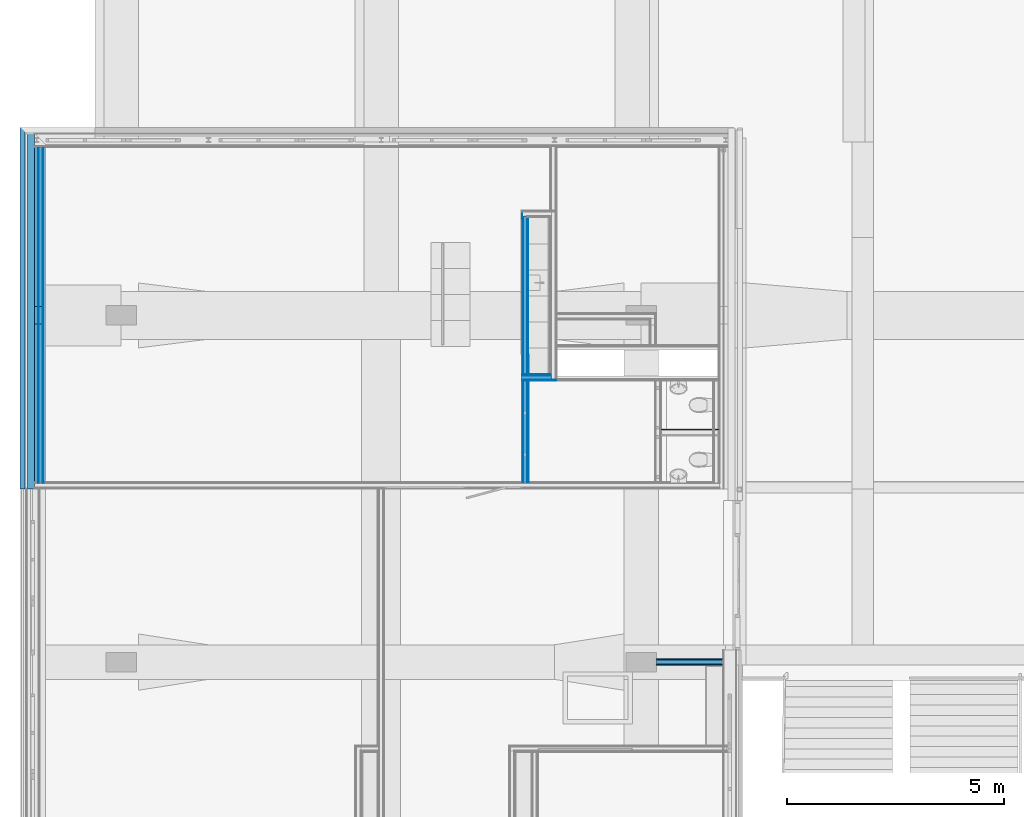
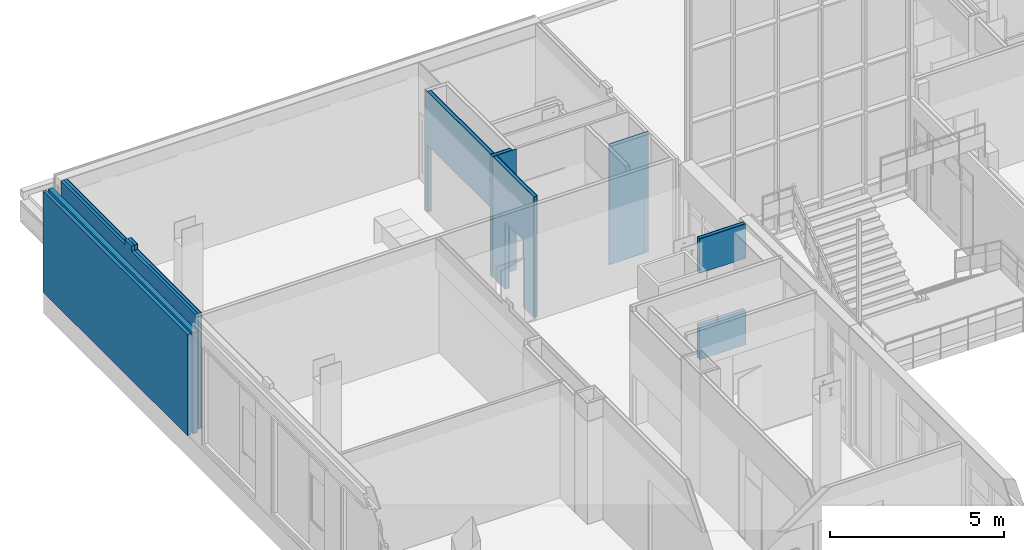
# One storey, part 46 of 94: 22 building element parts, 3 openings, 6 elements without a shape of their own.
"""IFC2X3 building model written with IfcOpenShell, lengths in millimetres."""

from ifc_helpers import new_model, entity, si_unit, converted_unit, derived_unit, money_unit, direction, frame, origin_with_axes, place, context, subcontext, project, spatial, faceted_brep, material, type_object, element, aggregate, save


model = new_model("IFC2X3")

# Units and contexts
model_context = context("Model", 3, precision=0.01, world=origin_with_axes(), true_north=direction((0.0, 1.0)))
body_context = subcontext(model_context, "Body", "Model", "MODEL_VIEW")
ifc_project = project(units=[si_unit("LENGTHUNIT", "METRE", prefix="MILLI"), si_unit("AREAUNIT", "SQUARE_METRE"), si_unit("VOLUMEUNIT", "CUBIC_METRE"), converted_unit("PLANEANGLEUNIT", "DEGREE", entity("IfcPlaneAngleMeasure", 0.0174532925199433), si_unit("PLANEANGLEUNIT", "RADIAN"), dimensions=[0, 0, 0, 0, 0, 0, 0]), money_unit("EUR"), converted_unit("TIMEUNIT", "Year", entity("IfcTimeMeasure", 31557600.0), si_unit("TIMEUNIT", "SECOND"), dimensions=[0, 0, 1, 0, 0, 0, 0]), si_unit("MASSUNIT", "GRAM", prefix="KILO"), si_unit("THERMODYNAMICTEMPERATUREUNIT", "DEGREE_CELSIUS"), si_unit("LUMINOUSINTENSITYUNIT", "LUMEN"), si_unit("ENERGYUNIT", "JOULE", prefix="MEGA"), derived_unit("THERMALCONDUCTANCEUNIT", [(si_unit("POWERUNIT", "WATT"), 1), (si_unit("LENGTHUNIT", "METRE"), -1), (si_unit("THERMODYNAMICTEMPERATUREUNIT", "KELVIN"), -1)]), derived_unit("SPECIFICHEATCAPACITYUNIT", [(si_unit("ENERGYUNIT", "JOULE"), 1), (si_unit("MASSUNIT", "GRAM", prefix="KILO"), -1), (si_unit("THERMODYNAMICTEMPERATUREUNIT", "KELVIN"), -1)]), derived_unit("MASSDENSITYUNIT", [(si_unit("MASSUNIT", "GRAM", prefix="KILO"), 1), (si_unit("VOLUMEUNIT", "CUBIC_METRE"), -1)])], contexts=[model_context])

# Site, building, storey
site_placement = place(None, origin_with_axes())
site = spatial("IfcSite", under=ifc_project, at=site_placement, Name="<site naam>", CompositionType="ELEMENT")
building_placement = place(site_placement, origin_with_axes())
building = spatial("IfcBuilding", under=site, at=building_placement, Name="<Naam gebouw>", CompositionType="ELEMENT")
storey_placement = place(building_placement, frame((0.0, 0.0, 4250.0), z_axis=(0.0, 0.0, 1.0), x_axis=(1.0, 0.0, 0.0)))
storey = spatial("IfcBuildingStorey", under=building, at=storey_placement, Name="01 1e verdieping", CompositionType="ELEMENT", Elevation=4250.0)

# Wall, building element parts
wall_type_1 = type_object("IfcWallType", Name="metselwerk-lucht-kalkzandsteen 335 335", PredefinedType="NOTDEFINED")
wall_1_placement = place(storey_placement, frame((-12334.99999999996, 12000.00000000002, 0.0), z_axis=(0.0, 0.0, 1.0), x_axis=(0.0, 1.0, 0.0)))
wall_1 = element("IfcWall", 1, at=wall_1_placement, inside=storey, type_object=wall_type_1, Name="21_Binnenwand_metselwerk-lucht-kalkzandsteen")
ifc_material_1 = material(Name="metselwerk AFW")
building_element_part_1_placement = place(wall_1_placement, origin_with_axes())
building_element_part_1 = element("IfcBuildingElementPart", 2, at=building_element_part_1_placement, material=ifc_material_1, Name="metselwerk AFW", context=body_context, shape_type="Brep", body=[
    faceted_brep([(0.0, -109.9999999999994, 3560.000003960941), (8335.0, -109.9999999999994, 3560.000003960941), (8335.0, 0.0, 3560.000003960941), (0.0, 0.0, 3560.000003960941), (0.0, -109.9999999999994, 0.0), (8335.0, -109.9999999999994, 0.0), (8335.0, 0.0, 0.0), (0.0, 0.0, 0.0)], [[[0, 1, 2, 3]], [[4, 5, 1, 0]], [[2, 1, 5, 6]], [[3, 2, 6, 7]], [[4, 0, 3, 7]], [[7, 6, 5, 4]]]),
])
ifc_material_2 = material(Name="kalkzandsteen C")
building_element_part_2_placement = place(wall_1_placement, origin_with_axes())
building_element_part_2 = element("IfcBuildingElementPart", 3, at=building_element_part_2_placement, material=ifc_material_2, Name="kalkzandsteen C", context=body_context, shape_type="Brep", body=[
    faceted_brep([(8174.999992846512, -335.0000000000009, 0.0), (8174.999992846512, -335.0000000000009, 19.99999999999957), (8214.999999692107, -335.0000000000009, 19.99999999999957), (8214.999999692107, -335.0000000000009, 0.0), (8335.0, -335.0000000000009, 0.0), (8335.0, -334.9999999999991, 3560.000003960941), (0.0, -334.9999999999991, 3560.000003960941), (0.0, -335.0000000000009, 0.0), (8174.999992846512, -175.0000000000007, 0.0), (8174.999992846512, -174.9999999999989, 19.99999999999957), (8214.999999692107, -174.9999999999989, 19.99999999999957), (8214.999999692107, -175.0000000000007, 0.0), (8335.0, -175.0000000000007, 0.0), (8335.0, -174.9999999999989, 3560.000003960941), (0.0, -174.9999999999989, 3560.000003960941), (0.0, -175.0000000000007, 0.0)], [[[0, 1, 2, 3, 4, 5, 6, 7]], [[1, 0, 8, 9]], [[2, 1, 9, 10]], [[3, 2, 10, 11]], [[3, 11, 12, 4]], [[13, 5, 4, 12]], [[6, 5, 13, 14]], [[7, 6, 14, 15]], [[8, 0, 7, 15]], [[9, 8, 15, 14, 13, 12, 11, 10]]]),
])
aggregate(wall_1, [building_element_part_1, building_element_part_2])

# Wall, openings, building element parts
wall_type_2 = type_object("IfcWallType", Name="MS-01 GF 150 ECO DGS/2.100.2.A 150", PredefinedType="NOTDEFINED")
wall_2_placement = place(storey_placement, frame((-751.89200798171, 18267.48958726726, 0.0), z_axis=(0.0, 0.0, 1.0), x_axis=(0.0003089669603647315, -0.9999999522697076, 0.0)))
wall_2 = element("IfcWall", 4, at=wall_2_placement, inside=storey, type_object=wall_type_2, Name="22_Binnenwand_MS-01")
opening_1_placement = place(wall_2_placement, frame((4999.526711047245, 0.0, 0.0), z_axis=(0.0, 0.0, 1.0), x_axis=(1.0, 0.0, 0.0)))
element("IfcOpeningElement", 5, at=opening_1_placement, cuts=wall_2, Name="22_BI-H-11_305", context=body_context, shape_type="Brep", body=[
    faceted_brep([(516.9999999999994, 152.936447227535, 2367.0), (516.9999999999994, 152.9364472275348, 0.0), (-517.0000000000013, 152.9364472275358, 0.0), (-517.0000000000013, 152.936447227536, 2367.0), (516.9999999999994, -2.936447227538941, 2367.0), (516.9999999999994, -2.936447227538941, 0.0), (-517.0000000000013, -2.936447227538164, 0.0), (-517.0000000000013, -2.936447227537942, 2367.0)], [[[0, 1, 2, 3]], [[4, 5, 1, 0]], [[5, 6, 2, 1]], [[6, 7, 3, 2]], [[7, 4, 0, 3]], [[6, 5, 4, 7]]]),
])
opening_2_placement = place(wall_2_placement, frame((18267.72102514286, 746.2479213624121, -4250.0), z_axis=(0.0, 0.0, 1.0), x_axis=(0.0003089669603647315, 0.9999999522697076, 0.0)))
element("IfcOpeningElement", 6, at=opening_2_placement, cuts=wall_2, Name="22_Opening_", context=body_context, shape_type="Brep", body=[
    faceted_brep([(-903.8284481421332, 18262.2394199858, 4248.5), (-903.8284481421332, 18262.2394199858, 6615.500000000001), (-448.0191276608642, 18262.38025001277, 6615.500000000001), (-448.0191276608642, 18262.38025001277, 4248.5), (-903.8284481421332, 14642.23924720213, 4248.5), (-903.8284481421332, 14642.23924720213, 6615.500000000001), (-448.0191276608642, 14642.38007722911, 6615.500000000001), (-448.0191276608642, 14642.38007722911, 4248.5)], [[[0, 1, 2, 3]], [[0, 4, 5, 1]], [[1, 5, 6, 2]], [[3, 2, 6, 7]], [[4, 0, 3, 7]], [[5, 4, 7, 6]]]),
])
ifc_material_3 = material(Name="gipsplaat")
building_element_part_3_placement = place(wall_2_placement, origin_with_axes())
building_element_part_3 = element("IfcBuildingElementPart", 7, at=building_element_part_3_placement, material=ifc_material_3, Name="gipsplaat", context=body_context, shape_type="Brep", body=[
    faceted_brep([(3780.032281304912, 137.4999999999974, 3.000000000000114), (6117.532362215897, 137.4999999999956, 3.000000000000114), (6117.532362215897, 137.4999999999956, 4250.0), (0.0412629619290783, 137.5000000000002, 4250.0), (0.0412629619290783, 137.5000000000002, 3.000000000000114), (3630.032362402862, 137.4999999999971, 3.000000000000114), (3630.032362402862, 137.499999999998, 0.0), (3780.032281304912, 137.4999999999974, 0.0), (0.2414861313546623, 137.4999999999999, 2367.0), (0.2414861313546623, 137.4999999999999, 2377.0), (3630.233334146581, 137.4999999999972, 2377.0), (3630.233334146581, 137.4999999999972, 2367.0), (3780.036143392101, 149.9999999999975, 3.000000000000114), (6117.536224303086, 149.9999999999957, 3.000000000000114), (6117.536224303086, 149.9999999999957, 4250.0), (0.04501414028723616, 149.9999999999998, 4250.0), (0.04501414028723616, 149.9999999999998, 3.000000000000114), (3630.03622449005, 149.999999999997, 3.000000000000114), (3630.03622449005, 149.999999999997, 0.0), (3780.036143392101, 149.9999999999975, 0.0), (0.2453482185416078, 149.9999999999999, 2367.0), (0.2453482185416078, 149.9999999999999, 2377.0), (3630.23719623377, 149.9999999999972, 2377.0), (3630.23719623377, 149.9999999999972, 2367.0)], [[[0, 1, 2, 3, 4, 5, 6, 7], [8, 9, 10, 11]], [[12, 13, 1, 0]], [[1, 13, 14, 2]], [[2, 14, 15, 3]], [[16, 4, 3, 15]], [[16, 17, 5, 4]], [[17, 18, 6, 5]], [[19, 7, 6, 18]], [[19, 12, 0, 7]], [[20, 21, 9, 8]], [[21, 22, 10, 9]], [[22, 23, 11, 10]], [[23, 20, 8, 11]], [[12, 19, 18, 17, 16, 15, 14, 13], [20, 23, 22, 21]]]),
])
building_element_part_4_placement = place(wall_2_placement, origin_with_axes())
building_element_part_4 = element("IfcBuildingElementPart", 8, at=building_element_part_4_placement, material=ifc_material_3, Name="gipsplaat", context=body_context, shape_type="Brep", body=[
    faceted_brep([(3780.028419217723, 124.9999999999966, 3.000000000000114), (6117.528500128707, 124.9999999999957, 3.000000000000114), (6117.528500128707, 124.9999999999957, 4250.0), (-12.46248877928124, 125.0000000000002, 4250.0), (-12.46248877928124, 125.0000000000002, 3.000000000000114), (3630.028500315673, 124.999999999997, 3.000000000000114), (3630.028500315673, 124.9999999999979, 0.0), (3780.028419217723, 124.9999999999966, 0.0), (0.2376240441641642, 124.9999999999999, 2367.0), (0.2376240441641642, 124.9999999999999, 2377.0), (3630.22947205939, 124.9999999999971, 2377.0), (3630.22947205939, 124.9999999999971, 2367.0), (3780.032281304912, 137.4999999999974, 3.000000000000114), (6117.532362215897, 137.4999999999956, 3.000000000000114), (6117.532362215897, 137.4999999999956, 4250.0), (-12.45873760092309, 137.5000000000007, 4250.0), (-12.45873760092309, 137.4999999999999, 3.000000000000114), (3630.032362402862, 137.4999999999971, 3.000000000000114), (3630.032362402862, 137.4999999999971, 0.0), (3780.032281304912, 137.4999999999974, 0.0), (0.2414861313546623, 137.4999999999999, 2367.0), (0.2414861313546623, 137.4999999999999, 2377.0), (3630.233334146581, 137.4999999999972, 2377.0), (3630.233334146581, 137.4999999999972, 2367.0)], [[[0, 1, 2, 3, 4, 5, 6, 7], [8, 9, 10, 11]], [[12, 13, 1, 0]], [[1, 13, 14, 2]], [[2, 14, 15, 3]], [[16, 4, 3, 15]], [[16, 17, 5, 4]], [[17, 18, 6, 5]], [[19, 7, 6, 18]], [[19, 12, 0, 7]], [[20, 21, 9, 8]], [[21, 22, 10, 9]], [[22, 23, 11, 10]], [[23, 20, 8, 11]], [[12, 19, 18, 17, 16, 15, 14, 13], [20, 23, 22, 21]]]),
])
ifc_material_4 = material(Name="isolatie_steenwol LSW")
building_element_part_5_placement = place(wall_2_placement, origin_with_axes())
building_element_part_5 = element("IfcBuildingElementPart", 9, at=building_element_part_5_placement, material=ifc_material_4, Name="isolatie_steenwol LSW", context=body_context, shape_type="Brep", body=[
    faceted_brep([(3779.997522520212, 24.99999999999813, 3.000000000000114), (6117.497603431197, 24.99999999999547, 3.000000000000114), (6117.497603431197, 24.99999999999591, 4250.0), (-24.99249876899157, 25.00000000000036, 4250.0), (-24.99249876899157, 24.99999999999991, 3.000000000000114), (3629.997603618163, 24.99999999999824, 3.000000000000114), (3629.997603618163, 24.99999999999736, 0.0), (3779.997522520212, 24.9999999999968, 0.0), (0.2067273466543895, 25.00000000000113, 2367.0), (0.2067273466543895, 25.00000000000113, 2377.0), (3630.198575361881, 24.99999999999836, 2377.0), (3630.198575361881, 24.99999999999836, 2367.0), (3780.028419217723, 124.9999999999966, 3.000000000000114), (6117.528500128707, 124.9999999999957, 3.000000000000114), (6117.528500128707, 124.9999999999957, 4250.0), (-24.96248934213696, 124.9999999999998, 4250.0), (-24.96248934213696, 124.9999999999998, 3.000000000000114), (3630.028500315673, 124.999999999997, 3.000000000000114), (3630.028500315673, 124.999999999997, 0.0), (3780.028419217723, 124.9999999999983, 0.0), (0.2376240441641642, 124.9999999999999, 2367.0), (0.2376240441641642, 124.9999999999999, 2377.0), (3630.22947205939, 124.9999999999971, 2377.0), (3630.22947205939, 124.9999999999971, 2367.0)], [[[0, 1, 2, 3, 4, 5, 6, 7], [8, 9, 10, 11]], [[12, 13, 1, 0]], [[1, 13, 14, 2]], [[2, 14, 15, 3]], [[16, 4, 3, 15]], [[16, 17, 5, 4]], [[17, 18, 6, 5]], [[19, 7, 6, 18]], [[19, 12, 0, 7]], [[20, 21, 9, 8]], [[21, 22, 10, 9]], [[22, 23, 11, 10]], [[23, 20, 8, 11]], [[12, 19, 18, 17, 16, 15, 14, 13], [20, 23, 22, 21]]]),
])
building_element_part_6_placement = place(wall_2_placement, origin_with_axes())
building_element_part_6 = element("IfcBuildingElementPart", 10, at=building_element_part_6_placement, material=ifc_material_3, Name="gipsplaat", context=body_context, shape_type="Brep", body=[
    faceted_brep([(3779.993660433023, 12.49999999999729, 3.000000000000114), (6117.493741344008, 12.49999999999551, 3.000000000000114), (6117.493741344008, 12.49999999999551, 4250.0), (-124.9962544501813, 12.50000000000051, 4250.0), (-124.9962544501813, 12.50000000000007, 3.000000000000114), (3629.993741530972, 12.49999999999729, 3.000000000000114), (3629.993741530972, 12.49999999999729, 0.0), (3779.993660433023, 12.49999999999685, 0.0), (0.2028652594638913, 12.50000000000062, 2367.0), (0.2028652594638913, 12.50000000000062, 2377.0), (3630.194713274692, 12.49999999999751, 2377.0), (3630.194713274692, 12.49999999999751, 2367.0), (3779.997522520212, 24.99999999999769, 3.000000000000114), (6117.497603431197, 24.99999999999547, 3.000000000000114), (6117.497603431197, 24.99999999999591, 4250.0), (-124.9925032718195, 25.00000000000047, 4250.0), (-124.9925032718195, 25.00000000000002, 3.000000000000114), (3629.997603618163, 24.9999999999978, 3.000000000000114), (3629.997603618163, 24.99999999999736, 0.0), (3779.997522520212, 24.99999999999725, 0.0), (0.2067273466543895, 25.00000000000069, 2367.0), (0.2067273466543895, 25.00000000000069, 2377.0), (3630.198575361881, 24.99999999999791, 2377.0), (3630.198575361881, 24.99999999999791, 2367.0)], [[[0, 1, 2, 3, 4, 5, 6, 7], [8, 9, 10, 11]], [[12, 13, 1, 0]], [[1, 13, 14, 2]], [[2, 14, 15, 3]], [[16, 4, 3, 15]], [[16, 17, 5, 4]], [[17, 18, 6, 5]], [[19, 7, 6, 18]], [[19, 12, 0, 7]], [[20, 21, 9, 8]], [[21, 22, 10, 9]], [[22, 23, 11, 10]], [[23, 20, 8, 11]], [[12, 19, 18, 17, 16, 15, 14, 13], [20, 23, 22, 21]]]),
])
aggregate(wall_2, [building_element_part_3, building_element_part_4, building_element_part_5, building_element_part_6])

# Wall, building element parts
wall_3_placement = place(storey_placement, frame((49.99999949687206, 14487.49996934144, 0.0), z_axis=(0.0, 0.0, 1.0), x_axis=(-1.0, 0.0, 0.0)))
wall_3 = element("IfcWall", 11, at=wall_3_placement, inside=storey, type_object=wall_type_2, Name="22_Binnenwand_MS-01")
building_element_part_7_placement = place(wall_3_placement, origin_with_axes())
building_element_part_7 = element("IfcBuildingElementPart", 12, at=building_element_part_7_placement, material=ifc_material_3, Name="gipsplaat", context=body_context, shape_type="Brep", body=[
    faceted_brep([(12.49999911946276, 0.0, 3040.0), (12.50177247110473, -12.49997454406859, 3040.0), (12.50177247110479, -12.49999999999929, 4250.0), (12.49999911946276, 0.0, 4250.0), (650.0018980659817, -12.49997454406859, 3040.0), (650.0018980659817, 0.0, 3040.0), (650.0018980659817, -12.49997454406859, 3000.0), (12.50177247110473, -12.49997454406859, 3000.0), (12.50177247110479, -12.49999999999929, 0.0), (799.9555601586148, -12.49999999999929, 0.0), (799.9555601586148, -12.49999999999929, 4250.0), (799.9555601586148, 0.0, 4250.0), (799.9555601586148, 0.0, 0.0), (12.49999911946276, 0.0, 0.0), (12.49999911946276, 0.0, 3000.0), (650.0018980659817, 0.0, 3000.0)], [[[0, 1, 2, 3]], [[4, 1, 0, 5]], [[6, 7, 8, 9, 10, 2, 1, 4]], [[2, 10, 11, 3]], [[5, 0, 3, 11, 12, 13, 14, 15]], [[6, 4, 5, 15]], [[14, 7, 6, 15]], [[7, 14, 13, 8]], [[13, 12, 9, 8]], [[9, 12, 11, 10]]]),
])
building_element_part_8_placement = place(wall_3_placement, origin_with_axes())
building_element_part_8 = element("IfcBuildingElementPart", 13, at=building_element_part_8_placement, material=ifc_material_4, Name="isolatie_steenwol LSW", context=body_context, shape_type="Brep", body=[
    faceted_brep([(125.0035469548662, -25.00000000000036, 0.0), (799.9555601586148, -25.00000000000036, 0.0), (799.9555601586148, -125.0, 0.0), (125.0177337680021, -125.0, 0.0), (125.0035469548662, -25.00000000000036, 4250.0), (799.9555601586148, -25.00000000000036, 4250.0), (799.9555601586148, -125.0, 4250.0), (125.0177337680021, -125.0, 4250.0)], [[[0, 1, 2, 3]], [[4, 5, 1, 0]], [[2, 1, 5, 6]], [[3, 2, 6, 7]], [[4, 0, 3, 7]], [[7, 6, 5, 4]]]),
])
building_element_part_9_placement = place(wall_3_placement, origin_with_axes())
building_element_part_9 = element("IfcBuildingElementPart", 14, at=building_element_part_9_placement, material=ifc_material_3, Name="gipsplaat", context=body_context, shape_type="Brep", body=[
    faceted_brep([(150.021252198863, -149.7989400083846, 2367.0), (150.021252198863, -149.7989400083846, 2377.0), (150.0212807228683, -150.0000000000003, 2377.0), (150.0212807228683, -150.0000000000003, 4250.0), (150.0195073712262, -137.4999999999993, 4250.0), (150.0195073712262, -137.4999999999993, 0.0), (150.0212807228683, -150.0000000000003, 0.0), (150.0212807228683, -150.0000000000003, 2367.0), (799.9555601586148, -149.7989400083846, 2367.0), (799.9555601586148, -149.7989400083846, 2377.0), (799.9555601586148, -150.0000000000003, 2377.0), (799.9555601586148, -150.0000000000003, 4250.0), (799.9555601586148, -137.4999999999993, 4250.0), (799.9555601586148, -137.4999999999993, 0.0), (799.9555601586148, -150.0000000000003, 0.0), (799.9555601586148, -150.0000000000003, 2367.0)], [[[0, 1, 2, 3, 4, 5, 6, 7]], [[1, 0, 8, 9]], [[10, 2, 1, 9]], [[2, 10, 11, 3]], [[3, 11, 12, 4]], [[4, 12, 13, 5]], [[5, 13, 14, 6]], [[15, 7, 6, 14]], [[0, 7, 15, 8]], [[8, 15, 14, 13, 12, 11, 10, 9]]]),
])
building_element_part_10_placement = place(wall_3_placement, origin_with_axes())
building_element_part_10 = element("IfcBuildingElementPart", 15, at=building_element_part_10_placement, material=ifc_material_3, Name="gipsplaat", context=body_context, shape_type="Brep", body=[
    faceted_brep([(25.00177259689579, -12.49999999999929, 0.0), (799.9555601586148, -12.49999999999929, 0.0), (799.9555601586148, -25.00000000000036, 0.0), (25.00354594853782, -25.00000000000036, 0.0), (25.00177259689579, -12.49999999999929, 4250.0), (799.9555601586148, -12.49999999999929, 4250.0), (799.9555601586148, -25.00000000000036, 4250.0), (25.00354594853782, -25.00000000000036, 4250.0)], [[[0, 1, 2, 3]], [[4, 5, 1, 0]], [[2, 1, 5, 6]], [[3, 2, 6, 7]], [[4, 0, 3, 7]], [[7, 6, 5, 4]]]),
])
building_element_part_11_placement = place(wall_3_placement, origin_with_axes())
building_element_part_11 = element("IfcBuildingElementPart", 16, at=building_element_part_11_placement, material=ifc_material_3, Name="gipsplaat", context=body_context, shape_type="Brep", body=[
    faceted_brep([(137.5177338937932, -125.0, 0.0), (799.9555601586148, -125.0, 0.0), (799.9555601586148, -137.4999999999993, 0.0), (137.5195072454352, -137.4999999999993, 0.0), (137.5177338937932, -125.0, 4250.0), (799.9555601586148, -125.0, 4250.0), (799.9555601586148, -137.4999999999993, 4250.0), (137.5195072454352, -137.4999999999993, 4250.0)], [[[0, 1, 2, 3]], [[4, 5, 1, 0]], [[2, 1, 5, 6]], [[3, 2, 6, 7]], [[4, 0, 3, 7]], [[7, 6, 5, 4]]]),
])
aggregate(wall_3, [building_element_part_7, building_element_part_8, building_element_part_9, building_element_part_10, building_element_part_11])

wall_type_3 = type_object("IfcWallType", Name="therm. voorzetwand 215mm 215", PredefinedType="NOTDEFINED")
wall_4_placement = place(storey_placement, frame((-11999.99999999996, 19883.99999999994, 0.0), z_axis=(0.0, 0.0, 1.0), x_axis=(0.0, -1.0, 0.0)))
wall_4 = element("IfcWall", 17, at=wall_4_placement, inside=storey, type_object=wall_type_3, Name="22_Binnenwand_therm.")
building_element_part_12_placement = place(wall_4_placement, origin_with_axes())
building_element_part_12 = element("IfcBuildingElementPart", 18, at=building_element_part_12_placement, material=ifc_material_3, Name="gipsplaat", context=body_context, shape_type="Brep", body=[
    faceted_brep([(3683.999999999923, 214.9999999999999, 4250.0), (3683.999999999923, 202.5000000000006, 4250.0), (4083.999999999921, 202.5000000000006, 4250.0), (4083.999999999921, 214.9999999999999, 4250.0), (3683.999999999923, 214.9999999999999, 4070.000000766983), (3683.999999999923, 202.5000000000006, 4070.000000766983), (0.0, 202.5000000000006, 4070.000000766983), (0.0, 202.5000000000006, 0.0), (7749.032361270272, 202.4999999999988, 0.0), (7749.032361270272, 202.4999999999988, 4070.000000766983), (4083.999999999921, 202.5000000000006, 4070.000000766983), (4083.999999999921, 214.9999999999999, 4070.000000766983), (7749.032361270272, 214.9999999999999, 4070.000000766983), (7749.032361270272, 214.9999999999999, 0.0), (0.0, 214.9999999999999, 0.0), (0.0, 214.9999999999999, 4070.000000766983)], [[[0, 1, 2, 3]], [[1, 0, 4, 5]], [[5, 6, 7, 8, 9, 10, 2, 1]], [[11, 3, 2, 10]], [[4, 0, 3, 11, 12, 13, 14, 15]], [[4, 15, 6, 5]], [[6, 15, 14, 7]], [[14, 13, 8, 7]], [[12, 9, 8, 13]], [[12, 11, 10, 9]]]),
])
building_element_part_13_placement = place(wall_4_placement, origin_with_axes())
building_element_part_13 = element("IfcBuildingElementPart", 19, at=building_element_part_13_placement, material=ifc_material_3, Name="gipsplaat", context=body_context, shape_type="Brep", body=[
    faceted_brep([(3683.999999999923, 202.5000000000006, 4250.0), (3683.999999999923, 189.9999999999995, 4250.0), (4083.999999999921, 189.9999999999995, 4250.0), (4083.999999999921, 202.5000000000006, 4250.0), (3683.999999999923, 202.5000000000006, 4070.000000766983), (3683.999999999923, 190.0000000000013, 4070.000000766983), (0.0, 189.9999999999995, 4070.000000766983), (0.0, 189.9999999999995, 0.0), (7749.032361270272, 189.9999999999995, 0.0), (7749.032361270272, 189.9999999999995, 4070.000000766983), (4083.999999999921, 190.0000000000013, 4070.000000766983), (4083.999999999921, 202.5000000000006, 4070.000000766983), (7749.032361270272, 202.4999999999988, 4070.000000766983), (7749.032361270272, 202.4999999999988, 0.0), (0.0, 202.5000000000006, 0.0), (0.0, 202.5000000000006, 4070.000000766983)], [[[0, 1, 2, 3]], [[1, 0, 4, 5]], [[5, 6, 7, 8, 9, 10, 2, 1]], [[11, 3, 2, 10]], [[4, 0, 3, 11, 12, 13, 14, 15]], [[4, 15, 6, 5]], [[6, 15, 14, 7]], [[14, 13, 8, 7]], [[12, 9, 8, 13]], [[12, 11, 10, 9]]]),
])
ifc_material_5 = material(Name="isolatie_steenwol")
building_element_part_14_placement = place(wall_4_placement, origin_with_axes())
building_element_part_14 = element("IfcBuildingElementPart", 20, at=building_element_part_14_placement, material=ifc_material_5, Name="isolatie_steenwol", context=body_context, shape_type="Brep", body=[
    faceted_brep([(3683.999999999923, 189.9999999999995, 4250.0), (3683.999999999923, 99.99999999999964, 4250.0), (4083.999999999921, 99.99999999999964, 4250.0), (4083.999999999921, 189.9999999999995, 4250.0), (3683.999999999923, 190.0000000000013, 4070.000000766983), (3683.999999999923, 100.0000000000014, 4070.000000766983), (0.0, 99.99999999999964, 4070.000000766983), (0.0, 99.99999999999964, 0.0), (7749.032361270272, 99.99999999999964, 0.0), (7749.032361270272, 99.99999999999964, 4070.000000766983), (4083.999999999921, 100.0000000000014, 4070.000000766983), (4083.999999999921, 190.0000000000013, 4070.000000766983), (7749.032361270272, 189.9999999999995, 4070.000000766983), (7749.032361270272, 189.9999999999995, 0.0), (0.0, 189.9999999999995, 0.0), (0.0, 189.9999999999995, 4070.000000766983)], [[[0, 1, 2, 3]], [[1, 0, 4, 5]], [[5, 6, 7, 8, 9, 10, 2, 1]], [[11, 3, 2, 10]], [[4, 0, 3, 11, 12, 13, 14, 15]], [[4, 15, 6, 5]], [[6, 15, 14, 7]], [[14, 13, 8, 7]], [[12, 9, 8, 13]], [[12, 11, 10, 9]]]),
])
building_element_part_15_placement = place(wall_4_placement, origin_with_axes())
building_element_part_15 = element("IfcBuildingElementPart", 21, at=building_element_part_15_placement, material=ifc_material_5, Name="isolatie_steenwol", context=body_context, shape_type="Brep", body=[
    faceted_brep([(3683.999999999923, 89.99999999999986, 4250.0), (3683.999999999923, 0.0, 4250.0), (4083.999999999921, 0.0, 4250.0), (4083.999999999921, 89.99999999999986, 4250.0), (3683.999999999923, 89.99999999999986, 4070.000000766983), (3683.999999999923, 0.0, 4070.000000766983), (0.0, 0.0, 4070.000000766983), (0.0, 0.0, 0.0), (7749.032361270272, 0.0, 0.0), (7749.032361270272, 0.0, 4070.000000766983), (4083.999999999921, 0.0, 4070.000000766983), (4083.999999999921, 89.99999999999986, 4070.000000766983), (7749.032361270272, 89.99999999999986, 4070.000000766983), (7749.032361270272, 89.99999999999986, 0.0), (0.0, 89.99999999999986, 0.0), (0.0, 89.99999999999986, 4070.000000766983)], [[[0, 1, 2, 3]], [[1, 0, 4, 5]], [[5, 6, 7, 8, 9, 10, 2, 1]], [[11, 3, 2, 10]], [[4, 0, 3, 11, 12, 13, 14, 15]], [[4, 15, 6, 5]], [[6, 15, 14, 7]], [[14, 13, 8, 7]], [[12, 9, 8, 13]], [[12, 11, 10, 9]]]),
])
ifc_material_6 = material(Name="metal_stud")
building_element_part_16_placement = place(wall_4_placement, origin_with_axes())
building_element_part_16 = element("IfcBuildingElementPart", 22, at=building_element_part_16_placement, material=ifc_material_6, Name="metal_stud", context=body_context, shape_type="Brep", body=[
    faceted_brep([(3683.999999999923, 99.99999999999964, 4250.0), (3683.999999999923, 89.99999999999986, 4250.0), (4083.999999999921, 89.99999999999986, 4250.0), (4083.999999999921, 99.99999999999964, 4250.0), (3683.999999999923, 100.0000000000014, 4070.000000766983), (3683.999999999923, 89.99999999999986, 4070.000000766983), (0.0, 89.99999999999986, 4070.000000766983), (0.0, 89.99999999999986, 0.0), (7749.032361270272, 89.99999999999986, 0.0), (7749.032361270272, 89.99999999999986, 4070.000000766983), (4083.999999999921, 89.99999999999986, 4070.000000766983), (4083.999999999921, 100.0000000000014, 4070.000000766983), (7749.032361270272, 99.99999999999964, 4070.000000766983), (7749.032361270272, 99.99999999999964, 0.0), (0.0, 99.99999999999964, 0.0), (0.0, 99.99999999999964, 4070.000000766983)], [[[0, 1, 2, 3]], [[1, 0, 4, 5]], [[5, 6, 7, 8, 9, 10, 2, 1]], [[11, 3, 2, 10]], [[4, 0, 3, 11, 12, 13, 14, 15]], [[4, 15, 6, 5]], [[6, 15, 14, 7]], [[14, 13, 8, 7]], [[12, 9, 8, 13]], [[12, 11, 10, 9]]]),
])
aggregate(wall_4, [building_element_part_12, building_element_part_13, building_element_part_14, building_element_part_15, building_element_part_16])

# Wall, building element part
wall_5_placement = place(storey_placement, frame((2465.044484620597, 13374.99996934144, 0.0), z_axis=(0.0, 0.0, 1.0), x_axis=(1.0, 0.0, 0.0)))
wall_5 = element("IfcWall", 23, at=wall_5_placement, inside=storey, type_object=wall_type_2, Name="22_Binnenwand_MS-01")
building_element_part_17_placement = place(wall_5_placement, origin_with_axes())
building_element_part_17 = element("IfcBuildingElementPart", 24, at=building_element_part_17_placement, material=ifc_material_3, Name="gipsplaat", context=body_context, shape_type="Brep", body=[
    faceted_brep([(0.0, 0.0, 19.99999999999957), (1200.423215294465, 0.0, 19.99999999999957), (1200.423215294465, 0.0, 0.0), (0.0, 0.0, 0.0), (1200.423215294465, -12.49999999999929, 19.99999999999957), (0.0, -12.49999999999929, 19.99999999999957), (1200.423215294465, -12.49999999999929, 0.0), (0.0, -12.49999999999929, 0.0)], [[[0, 1, 2, 3]], [[4, 1, 0, 5]], [[1, 4, 6, 2]], [[3, 2, 6, 7]], [[5, 0, 3, 7]], [[4, 5, 7, 6]]]),
    faceted_brep([(1200.423215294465, -12.49999999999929, 22.99999999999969), (1200.423215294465, 0.0, 22.99999999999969), (1200.423215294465, 0.0, 1914.999999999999), (1200.423215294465, -12.49999999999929, 1914.999999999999), (0.0, 0.0, 22.99999999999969), (0.0, -12.49999999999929, 22.99999999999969), (0.0, 0.0, 4250.0), (1320.000000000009, 0.0, 4250.0), (1320.000000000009, 0.0, 0.0), (1225.423215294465, 0.0, 0.0), (1225.423215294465, 0.0, 1914.999999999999), (1225.423215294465, -12.49999999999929, 1914.999999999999), (1225.423215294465, -12.49999999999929, 0.0), (1320.000000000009, -12.49999999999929, 0.0), (1320.000000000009, -12.49999999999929, 4250.0), (0.0, -12.49999999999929, 4250.0)], [[[0, 1, 2, 3]], [[4, 1, 0, 5]], [[1, 4, 6, 7, 8, 9, 10, 2]], [[2, 10, 11, 3]], [[5, 0, 3, 11, 12, 13, 14, 15]], [[4, 5, 15, 6]], [[6, 15, 14, 7]], [[8, 7, 14, 13]], [[13, 12, 9, 8]], [[11, 10, 9, 12]]]),
])
aggregate(wall_5, [building_element_part_17])

# Wall, opening, building element parts
wall_6_placement = place(storey_placement, frame((3884.044439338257, 8000.000000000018, 0.0), z_axis=(0.0, 0.0, 1.0), x_axis=(-1.0, 0.0, 0.0)))
wall_6 = element("IfcWall", 25, at=wall_6_placement, inside=storey, type_object=wall_type_2, Name="22_Binnenwand_MS-01")
opening_3_placement = place(wall_6_placement, frame((767.0222196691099, 0.0, 1200.0), z_axis=(0.0, 0.0, 1.0), x_axis=(1.0, 0.0, 0.0)))
element("IfcOpeningElement", 26, at=opening_3_placement, cuts=wall_6, Name="22__305", context=body_context, shape_type="Brep", body=[
    faceted_brep([(767.0222196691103, 76.00000000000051, 1839.999999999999), (767.0222196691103, 76.00000000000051, 0.0), (-767.0222196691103, 76.00000000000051, 0.0), (-767.0222196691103, 76.00000000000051, 1839.999999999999), (767.0222196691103, -75.99999999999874, 1839.999999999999), (767.0222196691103, -75.99999999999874, 0.0), (-767.0222196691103, -75.99999999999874, 0.0), (-767.0222196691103, -75.99999999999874, 1839.999999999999)], [[[0, 1, 2, 3]], [[4, 5, 1, 0]], [[5, 6, 2, 1]], [[6, 7, 3, 2]], [[7, 4, 0, 3]], [[6, 5, 4, 7]]]),
])
building_element_part_18_placement = place(wall_6_placement, origin_with_axes())
building_element_part_18 = element("IfcBuildingElementPart", 27, at=building_element_part_18_placement, material=ifc_material_3, Name="gipsplaat", context=body_context, shape_type="Brep", body=[
    faceted_brep([(1534.04443933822, 49.99999999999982, 3000.0), (400.0426872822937, 49.99999999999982, 3000.0), (400.0426872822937, 49.99999999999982, 3040.0), (1534.04443933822, 49.99999999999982, 3040.0), (1534.04443933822, 49.99999999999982, 4250.0), (0.0, 50.00000000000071, 4250.0), (0.0, 49.99999999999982, 3.000000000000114), (1534.04443933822, 49.99999999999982, 3.000000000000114), (1534.04443933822, 62.5, 3000.0), (400.0426872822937, 62.5, 3000.0), (400.0426872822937, 62.5, 3040.0), (1534.04443933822, 62.5, 3040.0), (1534.04443933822, 62.5, 4250.0), (0.0, 62.5, 4250.0), (0.0, 62.5, 3.000000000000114), (1534.04443933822, 62.5, 3.000000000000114)], [[[0, 1, 2, 3, 4, 5, 6, 7]], [[1, 0, 8, 9]], [[2, 1, 9, 10]], [[3, 2, 10, 11]], [[3, 11, 12, 4]], [[5, 4, 12, 13]], [[14, 6, 5, 13]], [[7, 6, 14, 15]], [[8, 0, 7, 15]], [[9, 8, 15, 14, 13, 12, 11, 10]]]),
])
building_element_part_19_placement = place(wall_6_placement, origin_with_axes())
building_element_part_19 = element("IfcBuildingElementPart", 28, at=building_element_part_19_placement, material=ifc_material_3, Name="gipsplaat", context=body_context, shape_type="Brep", body=[
    faceted_brep([(1534.04443933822, -62.5, 3000.0), (400.0426872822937, -62.5, 3000.0), (400.0426872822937, -62.5, 3040.0), (1534.04443933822, -62.5, 3040.0), (1534.04443933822, -62.5, 4250.0), (0.0, -62.5, 4250.0), (0.0, -62.5, 3.000000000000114), (1534.04443933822, -62.5, 3.000000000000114), (1534.04443933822, -50.00000000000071, 3000.0), (400.0426872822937, -50.00000000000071, 3000.0), (400.0426872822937, -50.00000000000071, 3040.0), (1534.04443933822, -50.00000000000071, 3040.0), (1534.04443933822, -50.00000000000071, 4250.0), (0.0, -49.99999999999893, 4250.0), (0.0, -50.00000000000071, 3.000000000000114), (1534.04443933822, -50.00000000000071, 3.000000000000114)], [[[0, 1, 2, 3, 4, 5, 6, 7]], [[1, 0, 8, 9]], [[2, 1, 9, 10]], [[3, 2, 10, 11]], [[3, 11, 12, 4]], [[5, 4, 12, 13]], [[14, 6, 5, 13]], [[7, 6, 14, 15]], [[8, 0, 7, 15]], [[9, 8, 15, 14, 13, 12, 11, 10]]]),
])
building_element_part_20_placement = place(wall_6_placement, origin_with_axes())
building_element_part_20 = element("IfcBuildingElementPart", 29, at=building_element_part_20_placement, material=ifc_material_4, Name="isolatie_steenwol LSW", context=body_context, shape_type="Brep", body=[
    faceted_brep([(1534.04443933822, -50.00000000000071, 3000.0), (400.0426872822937, -50.00000000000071, 3000.0), (400.0426872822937, -50.00000000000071, 3040.0), (1534.04443933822, -50.00000000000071, 3040.0), (1534.04443933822, -50.00000000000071, 4250.0), (0.0, -49.99999999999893, 4250.0), (0.0, -50.00000000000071, 3.000000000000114), (1534.04443933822, -50.00000000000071, 3.000000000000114), (1534.04443933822, 49.99999999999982, 3000.0), (400.0426872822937, 49.99999999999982, 3000.0), (400.0426872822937, 49.99999999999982, 3040.0), (1534.04443933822, 49.99999999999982, 3040.0), (1534.04443933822, 49.99999999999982, 4250.0), (0.0, 50.00000000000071, 4250.0), (0.0, 49.99999999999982, 3.000000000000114), (1534.04443933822, 49.99999999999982, 3.000000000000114)], [[[0, 1, 2, 3, 4, 5, 6, 7]], [[1, 0, 8, 9]], [[2, 1, 9, 10]], [[3, 2, 10, 11]], [[3, 11, 12, 4]], [[5, 4, 12, 13]], [[14, 6, 5, 13]], [[7, 6, 14, 15]], [[8, 0, 7, 15]], [[9, 8, 15, 14, 13, 12, 11, 10]]]),
])
building_element_part_21_placement = place(wall_6_placement, origin_with_axes())
building_element_part_21 = element("IfcBuildingElementPart", 30, at=building_element_part_21_placement, material=ifc_material_3, Name="gipsplaat", context=body_context, shape_type="Brep", body=[
    faceted_brep([(1534.04443933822, 62.5, 3000.0), (400.0426872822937, 62.5, 3000.0), (400.0426872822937, 62.5, 3040.0), (1534.04443933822, 62.5, 3040.0), (1534.04443933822, 62.5, 4250.0), (0.0, 62.5, 4250.0), (0.0, 62.5, 3.000000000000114), (1534.04443933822, 62.5, 3.000000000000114), (1534.04443933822, 75.00000000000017, 3000.0), (400.0426872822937, 75.00000000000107, 3000.0), (400.0426872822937, 75.00000000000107, 3040.0), (1534.04443933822, 75.00000000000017, 3040.0), (1534.04443933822, 75.00000000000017, 4250.0), (0.0, 75.00000000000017, 4250.0), (0.0, 75.00000000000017, 3.000000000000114), (1534.04443933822, 75.00000000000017, 3.000000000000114)], [[[0, 1, 2, 3, 4, 5, 6, 7]], [[1, 0, 8, 9]], [[2, 1, 9, 10]], [[3, 2, 10, 11]], [[3, 11, 12, 4]], [[5, 4, 12, 13]], [[14, 6, 5, 13]], [[7, 6, 14, 15]], [[8, 0, 7, 15]], [[9, 8, 15, 14, 13, 12, 11, 10]]]),
])
building_element_part_22_placement = place(wall_6_placement, origin_with_axes())
building_element_part_22 = element("IfcBuildingElementPart", 31, at=building_element_part_22_placement, material=ifc_material_3, Name="gipsplaat", context=body_context, shape_type="Brep", body=[
    faceted_brep([(1534.04443933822, -74.99999999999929, 3000.0), (0.0, -74.99999999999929, 3000.0), (0.0, -74.99999999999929, 3.000000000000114), (1534.04443933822, -74.99999999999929, 3.000000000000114), (1534.04443933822, -62.5, 3000.0), (0.0, -62.5, 3000.0), (0.0, -62.5, 3.000000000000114), (1534.04443933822, -62.5, 3.000000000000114)], [[[0, 1, 2, 3]], [[1, 0, 4, 5]], [[1, 5, 6, 2]], [[3, 2, 6, 7]], [[4, 0, 3, 7]], [[4, 7, 6, 5]]]),
    faceted_brep([(0.0, -62.5, 3040.0), (1534.04443933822, -62.5, 3040.0), (1534.04443933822, -74.99999999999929, 3040.0), (0.0, -74.99999999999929, 3040.0), (0.0, -62.5, 4250.0), (1534.04443933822, -62.5, 4250.0), (1534.04443933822, -74.99999999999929, 4250.0), (0.0, -74.99999999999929, 4250.0)], [[[0, 1, 2, 3]], [[1, 0, 4, 5]], [[2, 1, 5, 6]], [[2, 6, 7, 3]], [[0, 3, 7, 4]], [[7, 6, 5, 4]]]),
])
aggregate(wall_6, [building_element_part_18, building_element_part_19, building_element_part_20, building_element_part_21, building_element_part_22])

save(model, "model.ifc")
